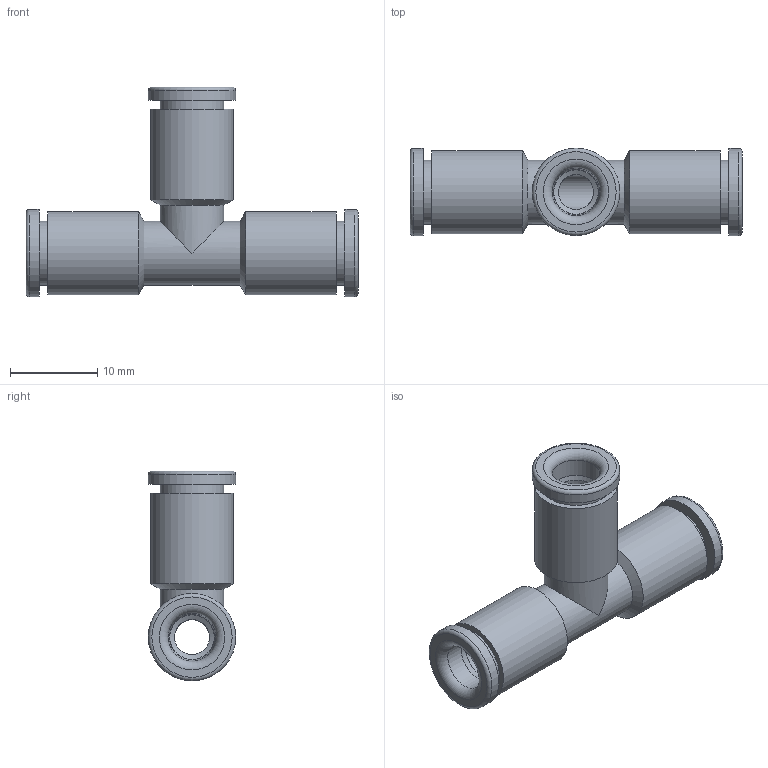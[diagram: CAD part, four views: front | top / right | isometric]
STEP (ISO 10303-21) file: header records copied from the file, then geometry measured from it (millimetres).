
FILE_DESCRIPTION(('Bauteilbeschreibung','HiCAD-Model','HiCAD-STEP-TRANSLATION','Bauteilbeschreibung'),'2;1');
FILE_NAME('B:/ABGLEICH/ZEICHNUNGEN/STEP FÜR INTERNET/STEP/200502_IPSO_05_5.STP','2011-07-21T16:56:28+00:00',('Konstrukteur'),('Konstrukteur Firma GmbH'),' HiCAD neXt 2008, Step 3.1.1401.2J ','HiCAD neXt 2008','confidential');
FILE_SCHEMA(('AUTOMOTIVE_DESIGN { 1 2 10303 214 0 1 1 1 }'));
Length unit declared in the file: millimetre
Products named in the file (5): A00502_IPSO_05_5; DR5_1; DR501; DR5010; R200502
Assembly tree (4 placements, depth 2):
  A00502_IPSO_05_5
    DR5_1
    DR501
    DR5010
    R200502
Bounding box: 38 x 10 x 24 mm (x, y, z)
Volume: 1771.7 mm3; surface area: 3757.3 mm2
Topology: 4 solids, 4 shells, 82 faces, 156 edges, 90 vertices
Faces by surface type: cylinder 28, cone 18, plane 18, torus 18
Full cylindrical faces by diameter (mm): 4 x2, 5.1 x3, 5.2 x3, 5.5 x3, 6 x3, 7.3 x5, 7.5 x3, 9.5 x3, 10 x3
Entity records: 2253 total; most frequent: DIRECTION 350, CARTESIAN_POINT 260, AXIS2_PLACEMENT_3D 175, ORIENTED_EDGE 170, EDGE_LOOP 166, COLOUR_RGB 89, PRESENTATION_STYLE_ASSIGNMENT 89, CURVE_STYLE 85
